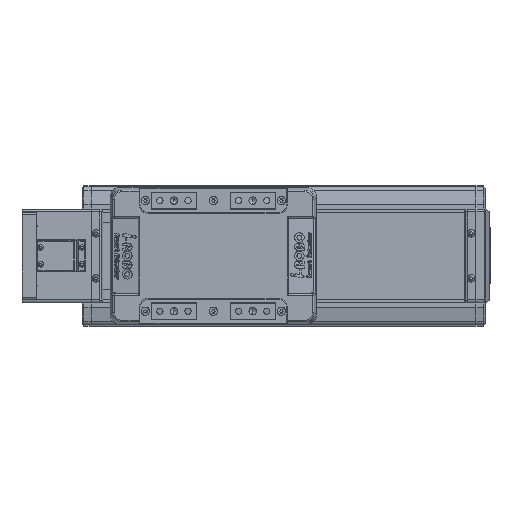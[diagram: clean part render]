
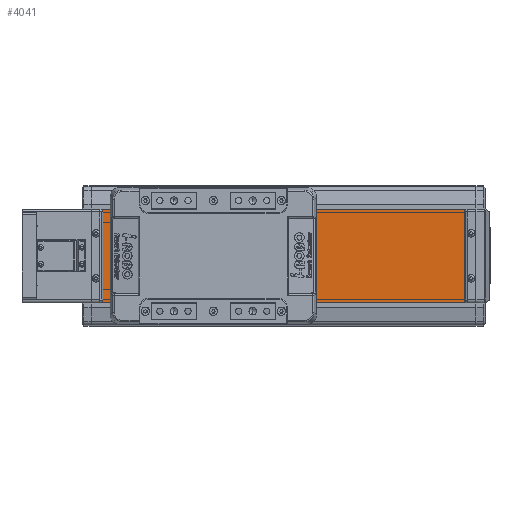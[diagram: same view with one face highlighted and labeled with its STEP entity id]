
A CAD part, top view. The second image highlights one B-rep face of the part: STEP entity #4041.
In plain terms, the highlighted planar face has unit normal (0, 0, 1).
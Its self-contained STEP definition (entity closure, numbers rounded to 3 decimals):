
#4041=ADVANCED_FACE('',(#10191),#10192,.F.);
#10191=FACE_OUTER_BOUND('',#19596,.T.);
#10192=PLANE('',#19597);
#19596=EDGE_LOOP('',(#31475,#31476,#31477,#31478));
#19597=AXIS2_PLACEMENT_3D('',#31479,#31480,#31481);
#31475=ORIENTED_EDGE('',*,*,#55498,.F.);
#31476=ORIENTED_EDGE('',*,*,#55499,.F.);
#31477=ORIENTED_EDGE('',*,*,#55500,.F.);
#31478=ORIENTED_EDGE('',*,*,#55501,.T.);
#31479=CARTESIAN_POINT('',(0.,0.,26.));
#31480=DIRECTION('',(0.,0.,-1.0));
#31481=DIRECTION('',(0.,1.0,0.));
#55498=EDGE_CURVE('',#66669,#66670,#66671,.T.);
#55499=EDGE_CURVE('',#66672,#66669,#66673,.T.);
#55500=EDGE_CURVE('',#66674,#66672,#66675,.T.);
#55501=EDGE_CURVE('',#66674,#66670,#66676,.T.);
#66669=VERTEX_POINT('',#82069);
#66670=VERTEX_POINT('',#82070);
#66671=LINE('',#82071,#82072);
#66672=VERTEX_POINT('',#82073);
#66673=LINE('',#82074,#82075);
#66674=VERTEX_POINT('',#82076);
#66675=LINE('',#82077,#82078);
#66676=LINE('',#82079,#82080);
#82069=CARTESIAN_POINT('',(410.0,50.,26.));
#82070=CARTESIAN_POINT('',(410.0,-50.,26.));
#82071=CARTESIAN_POINT('',(410.0,-50.,26.));
#82072=VECTOR('',#100570,10.0);
#82073=CARTESIAN_POINT('',(0.,50.,26.));
#82074=CARTESIAN_POINT('',(0.,50.,26.));
#82075=VECTOR('',#100571,10.0);
#82076=CARTESIAN_POINT('',(0.,-50.,26.));
#82077=CARTESIAN_POINT('',(0.,-50.,26.));
#82078=VECTOR('',#100572,10.0);
#82079=CARTESIAN_POINT('',(0.,-50.,26.));
#82080=VECTOR('',#100573,10.0);
#100570=DIRECTION('',(0.,-1.0,0.));
#100571=DIRECTION('',(1.0,0.,0.));
#100572=DIRECTION('',(0.,1.0,0.));
#100573=DIRECTION('',(1.0,0.,0.));
